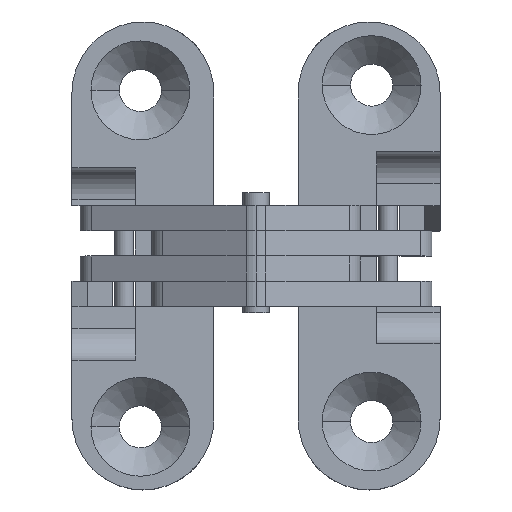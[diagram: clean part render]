
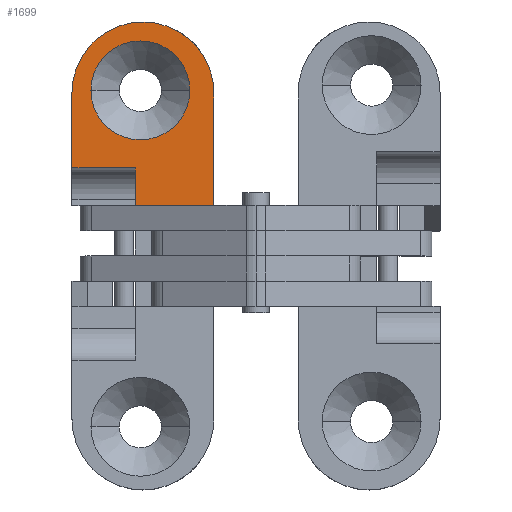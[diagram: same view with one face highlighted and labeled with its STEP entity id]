
A CAD part, top view. The second image highlights one B-rep face of the part: STEP entity #1699.
In plain terms, the highlighted planar face has unit normal (0, 0, 1).
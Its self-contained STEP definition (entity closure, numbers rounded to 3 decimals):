
#9 = VERTEX_POINT ( 'NONE', #1914 ) ;
#211 = ORIENTED_EDGE ( 'NONE', *, *, #1198, .F. ) ;
#213 = ORIENTED_EDGE ( 'NONE', *, *, #1200, .F. ) ;
#214 = ORIENTED_EDGE ( 'NONE', *, *, #1183, .F. ) ;
#215 = ORIENTED_EDGE ( 'NONE', *, *, #1134, .F. ) ;
#216 = ORIENTED_EDGE ( 'NONE', *, *, #1151, .T. ) ;
#255 = EDGE_LOOP ( 'NONE', ( #584, #587, #586, #215, #216, #211, #213, #214 ) ) ;
#260 = EDGE_LOOP ( 'NONE', ( #583, #588 ) ) ;
#583 = ORIENTED_EDGE ( 'NONE', *, *, #1203, .F. ) ;
#584 = ORIENTED_EDGE ( 'NONE', *, *, #1161, .T. ) ;
#586 = ORIENTED_EDGE ( 'NONE', *, *, #1090, .F. ) ;
#587 = ORIENTED_EDGE ( 'NONE', *, *, #1182, .T. ) ;
#588 = ORIENTED_EDGE ( 'NONE', *, *, #1061, .F. ) ;
#693 = CIRCLE ( 'NONE', #1315, 4.7 ) ;
#733 = LINE ( 'NONE', #2114, #738 ) ;
#738 = VECTOR ( 'NONE', #2118, 1000. ) ;
#795 = LINE ( 'NONE', #2252, #811 ) ;
#811 = VECTOR ( 'NONE', #2256, 1000. ) ;
#840 = CIRCLE ( 'NONE', #1330, 6.75 ) ;
#852 = LINE ( 'NONE', #2398, #853 ) ;
#853 = VECTOR ( 'NONE', #2399, 1000. ) ;
#887 = VECTOR ( 'NONE', #2443, 1000. ) ;
#889 = LINE ( 'NONE', #2442, #887 ) ;
#894 = LINE ( 'NONE', #2444, #895 ) ;
#895 = VECTOR ( 'NONE', #2445, 1000. ) ;
#910 = LINE ( 'NONE', #2473, #923 ) ;
#914 = VECTOR ( 'NONE', #2481, 1000. ) ;
#922 = LINE ( 'NONE', #2480, #914 ) ;
#923 = VECTOR ( 'NONE', #2477, 1000. ) ;
#934 = CIRCLE ( 'NONE', #1337, 4.7 ) ;
#1061 = EDGE_CURVE ( 'NONE', #9, #1828, #693, .T. ) ;
#1090 = EDGE_CURVE ( 'NONE', #3717, #3723, #733, .T. ) ;
#1134 = EDGE_CURVE ( 'NONE', #1825, #3717, #795, .T. ) ;
#1151 = EDGE_CURVE ( 'NONE', #1825, #1887, #840, .T. ) ;
#1161 = EDGE_CURVE ( 'NONE', #1878, #1899, #852, .T. ) ;
#1182 = EDGE_CURVE ( 'NONE', #1899, #3723, #889, .T. ) ;
#1183 = EDGE_CURVE ( 'NONE', #1878, #1894, #894, .T. ) ;
#1198 = EDGE_CURVE ( 'NONE', #1889, #1887, #910, .T. ) ;
#1200 = EDGE_CURVE ( 'NONE', #1894, #1889, #922, .T. ) ;
#1203 = EDGE_CURVE ( 'NONE', #1828, #9, #934, .T. ) ;
#1315 = AXIS2_PLACEMENT_3D ( 'NONE', #2034, #2035, #2036 ) ;
#1330 = AXIS2_PLACEMENT_3D ( 'NONE', #2338, #2345, #2346 ) ;
#1337 = AXIS2_PLACEMENT_3D ( 'NONE', #2486, #2487, #2488 ) ;
#1413 = AXIS2_PLACEMENT_3D ( 'NONE', #3109, #3114, #3115 ) ;
#1699 = ADVANCED_FACE ( 'NONE', ( #3158, #3162 ), #3108, .T. ) ;
#1825 = VERTEX_POINT ( 'NONE', #4022 ) ;
#1828 = VERTEX_POINT ( 'NONE', #4025 ) ;
#1878 = VERTEX_POINT ( 'NONE', #4075 ) ;
#1887 = VERTEX_POINT ( 'NONE', #4084 ) ;
#1889 = VERTEX_POINT ( 'NONE', #4086 ) ;
#1894 = VERTEX_POINT ( 'NONE', #4091 ) ;
#1899 = VERTEX_POINT ( 'NONE', #4096 ) ;
#1914 = CARTESIAN_POINT ( 'NONE',  ( -5.2, -15.75, 5. ) ) ;
#2034 = CARTESIAN_POINT ( 'NONE',  ( -0.5, -15.75, 5. ) ) ;
#2035 = DIRECTION ( 'NONE',  ( 0., 0., 1. ) ) ;
#2036 = DIRECTION ( 'NONE',  ( 1., 0., 0. ) ) ;
#2114 = CARTESIAN_POINT ( 'NONE',  ( 6., -2.4, 5. ) ) ;
#2118 = DIRECTION ( 'NONE',  ( 1., 0., 0. ) ) ;
#2252 = CARTESIAN_POINT ( 'NONE',  ( -7.5, -36.312, 5. ) ) ;
#2256 = DIRECTION ( 'NONE',  ( 0., 1., 0. ) ) ;
#2338 = CARTESIAN_POINT ( 'NONE',  ( -0.75, -15.5, 5. ) ) ;
#2345 = DIRECTION ( 'NONE',  ( 0., 0., 1. ) ) ;
#2346 = DIRECTION ( 'NONE',  ( 1., 0., 0. ) ) ;
#2398 = CARTESIAN_POINT ( 'NONE',  ( -18.36, -4.8, 5. ) ) ;
#2399 = DIRECTION ( 'NONE',  ( -1., 0., 0. ) ) ;
#2442 = CARTESIAN_POINT ( 'NONE',  ( -7., -14.484, 5. ) ) ;
#2443 = DIRECTION ( 'NONE',  ( 0., 1., 0. ) ) ;
#2444 = CARTESIAN_POINT ( 'NONE',  ( 0., 9.9, 5. ) ) ;
#2445 = DIRECTION ( 'NONE',  ( 0., -1., 0. ) ) ;
#2473 = CARTESIAN_POINT ( 'NONE',  ( 6., -36.312, 5. ) ) ;
#2477 = DIRECTION ( 'NONE',  ( 0., -1., 0. ) ) ;
#2480 = CARTESIAN_POINT ( 'NONE',  ( 0., -8.367, 5. ) ) ;
#2481 = DIRECTION ( 'NONE',  ( 1., 0., 0. ) ) ;
#2486 = CARTESIAN_POINT ( 'NONE',  ( -0.5, -15.75, 5. ) ) ;
#2487 = DIRECTION ( 'NONE',  ( 0., 0., 1. ) ) ;
#2488 = DIRECTION ( 'NONE',  ( 1., 0., 0. ) ) ;
#3108 = PLANE ( 'NONE',  #1413 ) ;
#3109 = CARTESIAN_POINT ( 'NONE',  ( -0.75, -36.312, 5. ) ) ;
#3114 = DIRECTION ( 'NONE',  ( 0., 0., 1. ) ) ;
#3115 = DIRECTION ( 'NONE',  ( 1., 0., 0. ) ) ;
#3158 = FACE_BOUND ( 'NONE', #260, .T. ) ;
#3162 = FACE_OUTER_BOUND ( 'NONE', #255, .T. ) ;
#3717 = VERTEX_POINT ( 'NONE', #4111 ) ;
#3723 = VERTEX_POINT ( 'NONE', #4125 ) ;
#4022 = CARTESIAN_POINT ( 'NONE',  ( -7.5, -15.5, 5. ) ) ;
#4025 = CARTESIAN_POINT ( 'NONE',  ( 4.2, -15.75, 5. ) ) ;
#4075 = CARTESIAN_POINT ( 'NONE',  ( 0., -4.8, 5. ) ) ;
#4084 = CARTESIAN_POINT ( 'NONE',  ( 6., -15.5, 5. ) ) ;
#4086 = CARTESIAN_POINT ( 'NONE',  ( 6., -8.367, 5. ) ) ;
#4091 = CARTESIAN_POINT ( 'NONE',  ( 0., -8.367, 5. ) ) ;
#4096 = CARTESIAN_POINT ( 'NONE',  ( -7., -4.8, 5. ) ) ;
#4111 = CARTESIAN_POINT ( 'NONE',  ( -7.5, -2.4, 5. ) ) ;
#4125 = CARTESIAN_POINT ( 'NONE',  ( -7., -2.4, 5. ) ) ;
